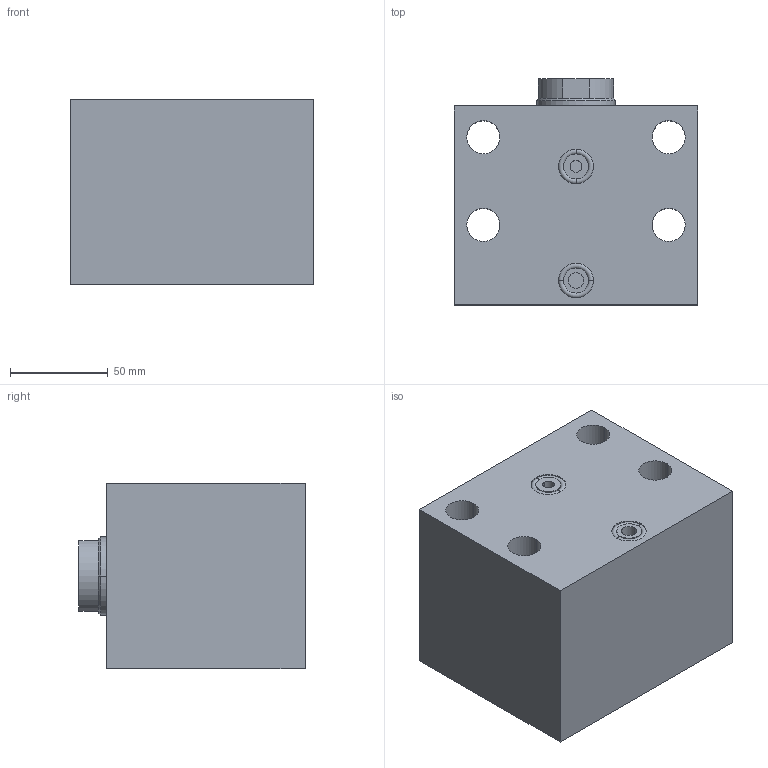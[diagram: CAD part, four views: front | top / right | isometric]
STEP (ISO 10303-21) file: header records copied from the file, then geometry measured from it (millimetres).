
FILE_DESCRIPTION (( 'STEP AP203' ), '1' );
FILE_NAME ('GERMA_Blockzylinder_603-063-030.STEP', '2016-01-24T17:51:11', ( '' ), ( '' ), 'SwSTEP 2.0', 'SolidWorks 2015', '' );
FILE_SCHEMA (( 'CONFIG_CONTROL_DESIGN' ));
Length unit declared in the file: millimetre
Products named in the file (3): GERMA_Blockzylinder_603-063-030; GH-600-063_GH-603-063-030; Kolben 60x-063_Kolben DU.63-Hub30-IG
Assembly tree (2 placements, depth 2):
  GERMA_Blockzylinder_603-063-030
    GH-600-063_GH-603-063-030
    Kolben 60x-063_Kolben DU.63-Hub30-IG
Bounding box: 125 x 116 x 95 mm (x, y, z)
Volume: 1061019.7 mm3; surface area: 131719.9 mm2
Topology: 2 solids, 2 shells, 81 faces, 176 edges, 106 vertices
Faces by surface type: cylinder 41, plane 22, cone 14, torus 4
Entity records: 2506 total; most frequent: DIRECTION 439, CARTESIAN_POINT 362, ORIENTED_EDGE 340, AXIS2_PLACEMENT_3D 183, EDGE_CURVE 170, VERTEX_POINT 106, EDGE_LOOP 102, CIRCLE 97
